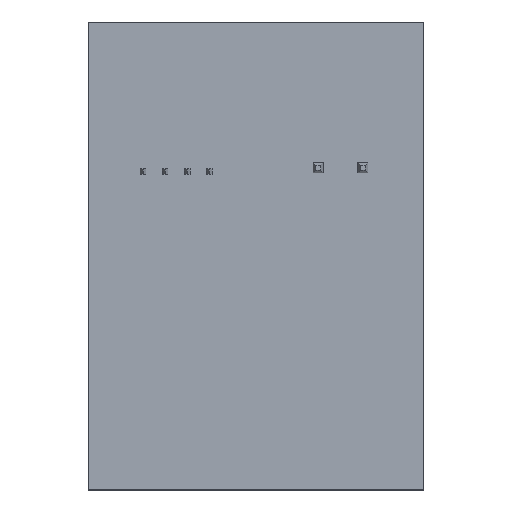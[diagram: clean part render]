
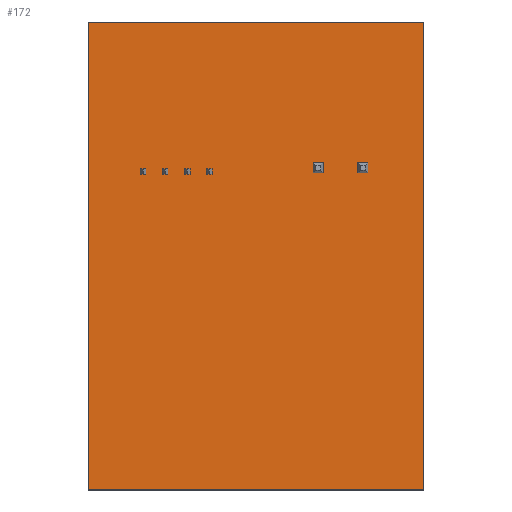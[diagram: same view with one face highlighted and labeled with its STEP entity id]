
A CAD part, top view. The second image highlights one B-rep face of the part: STEP entity #172.
In plain terms, the highlighted planar face has unit normal (0, 0, 1).
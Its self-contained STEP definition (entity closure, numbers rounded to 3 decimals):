
#43 = VERTEX_POINT('',#44);
#44 = CARTESIAN_POINT('',(23.,183.,0.));
#50 = EDGE_CURVE('',#43,#51,#53,.T.);
#51 = VERTEX_POINT('',#52);
#52 = CARTESIAN_POINT('',(61.,183.,0.));
#53 = LINE('',#54,#55);
#54 = CARTESIAN_POINT('',(23.,183.,0.));
#55 = VECTOR('',#56,1.);
#56 = DIRECTION('',(1.,0.,0.));
#81 = EDGE_CURVE('',#51,#82,#84,.T.);
#82 = VERTEX_POINT('',#83);
#83 = CARTESIAN_POINT('',(61.,130.,0.));
#84 = LINE('',#85,#86);
#85 = CARTESIAN_POINT('',(61.,183.,0.));
#86 = VECTOR('',#87,1.);
#87 = DIRECTION('',(0.,-1.,0.));
#112 = EDGE_CURVE('',#82,#113,#115,.T.);
#113 = VERTEX_POINT('',#114);
#114 = CARTESIAN_POINT('',(23.,130.,0.));
#115 = LINE('',#116,#117);
#116 = CARTESIAN_POINT('',(61.,130.,0.));
#117 = VECTOR('',#118,1.);
#118 = DIRECTION('',(-1.,0.,0.));
#143 = EDGE_CURVE('',#113,#43,#144,.T.);
#144 = LINE('',#145,#146);
#145 = CARTESIAN_POINT('',(23.,130.,0.));
#146 = VECTOR('',#147,1.);
#147 = DIRECTION('',(0.,1.,0.));
#172 = ADVANCED_FACE('',(#173),#179,.T.);
#173 = FACE_BOUND('',#174,.F.);
#174 = EDGE_LOOP('',(#175,#176,#177,#178));
#175 = ORIENTED_EDGE('',*,*,#50,.T.);
#176 = ORIENTED_EDGE('',*,*,#81,.T.);
#177 = ORIENTED_EDGE('',*,*,#112,.T.);
#178 = ORIENTED_EDGE('',*,*,#143,.T.);
#179 = PLANE('',#180);
#180 = AXIS2_PLACEMENT_3D('',#181,#182,#183);
#181 = CARTESIAN_POINT('',(23.,183.,0.));
#182 = DIRECTION('',(0.,0.,1.));
#183 = DIRECTION('',(1.,0.,0.));
